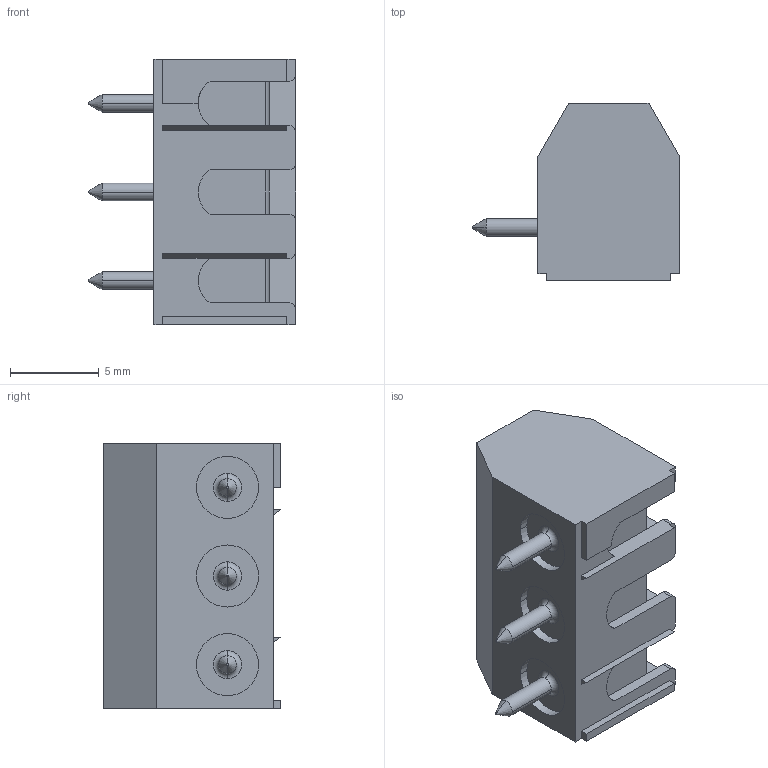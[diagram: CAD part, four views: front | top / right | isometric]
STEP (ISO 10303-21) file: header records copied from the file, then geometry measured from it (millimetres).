
FILE_DESCRIPTION (( 'STEP AP214' ), '1' );
FILE_NAME ('951-FB-03.STEP', '2008-03-12T01:31:45', ( ' ' ), ( '' ), 'SwSTEP 2.0', 'SolidWorks 2007', '' );
FILE_SCHEMA (( 'AUTOMOTIVE_DESIGN' ));
Length unit declared in the file: millimetre
Products named in the file (1): 951-FB-03
Bounding box: 11.7 x 10 x 15 mm (x, y, z)
Volume: 811.9 mm3; surface area: 995.6 mm2
Topology: 1 solids, 1 shells, 265 faces, 777 edges, 511 vertices
Faces by surface type: plane 180, cylinder 67, cone 12, torus 6
Entity records: 8947 total; most frequent: CARTESIAN_POINT 1794, ORIENTED_EDGE 1554, DIRECTION 1440, EDGE_CURVE 777, VECTOR 538, LINE 538, VERTEX_POINT 511, AXIS2_PLACEMENT_3D 451
